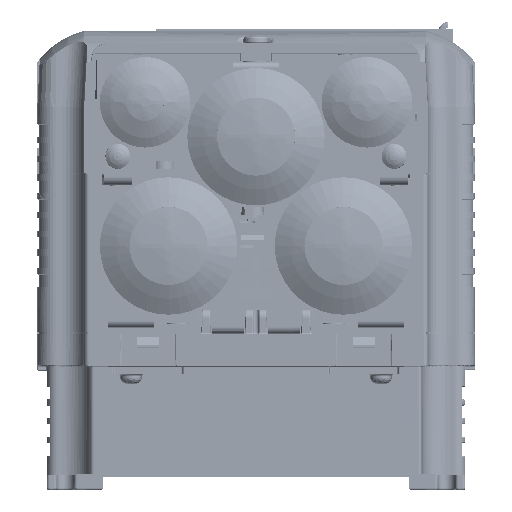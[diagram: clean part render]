
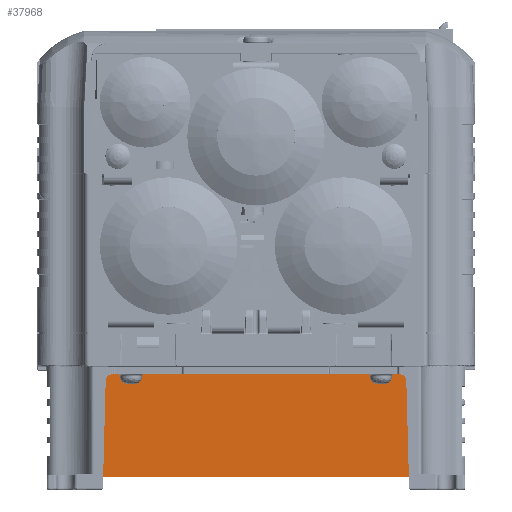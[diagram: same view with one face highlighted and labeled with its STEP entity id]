
A CAD part, front view. The second image highlights one B-rep face of the part: STEP entity #37968.
In plain terms, the highlighted planar face has unit normal (0, -1, 0).
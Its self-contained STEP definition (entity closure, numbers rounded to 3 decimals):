
#1904=DIRECTION('',(0.,0.,1.));
#1905=VECTOR('',#1904,33.);
#1906=CARTESIAN_POINT('',(55.259,-97.793,4.));
#1907=LINE('',#1906,#1905);
#1912=DIRECTION('',(0.,0.,1.));
#1913=VECTOR('',#1912,33.);
#1914=CARTESIAN_POINT('',(-55.259,-97.793,4.));
#1915=LINE('',#1914,#1913);
#19019=DIRECTION('',(-1.,0.,0.));
#19020=VECTOR('',#19019,110.518);
#19021=CARTESIAN_POINT('',(55.259,-97.793,37.));
#19022=LINE('',#19021,#19020);
#24315=DIRECTION('',(-1.,0.,0.));
#24316=VECTOR('',#24315,110.518);
#24317=CARTESIAN_POINT('',(55.259,-97.793,4.));
#24318=LINE('',#24317,#24316);
#35326=CARTESIAN_POINT('',(55.259,-97.793,4.));
#35328=VERTEX_POINT('',#35326);
#35329=CARTESIAN_POINT('',(-55.259,-97.793,4.));
#35330=VERTEX_POINT('',#35329);
#35346=CARTESIAN_POINT('',(55.259,-97.793,37.));
#35348=VERTEX_POINT('',#35346);
#35349=CARTESIAN_POINT('',(-55.259,-97.793,37.));
#35350=VERTEX_POINT('',#35349);
#37954=CARTESIAN_POINT('',(55.259,-97.793,4.));
#37955=DIRECTION('',(0.,-1.,0.));
#37956=DIRECTION('',(-1.,0.,0.));
#37957=AXIS2_PLACEMENT_3D('',#37954,#37955,#37956);
#37958=PLANE('',#37957);
#37960=ORIENTED_EDGE('',*,*,#37959,.F.);
#37961=ORIENTED_EDGE('',*,*,#37895,.F.);
#37963=ORIENTED_EDGE('',*,*,#37962,.T.);
#37965=ORIENTED_EDGE('',*,*,#37964,.T.);
#37966=EDGE_LOOP('',(#37960,#37961,#37963,#37965));
#37967=FACE_OUTER_BOUND('',#37966,.F.);
#37968=ADVANCED_FACE('',(#37967),#37958,.T.);
#37895=EDGE_CURVE('',#35328,#35348,#1907,.T.);
#37959=EDGE_CURVE('',#35348,#35350,#19022,.T.);
#37962=EDGE_CURVE('',#35328,#35330,#24318,.T.);
#37964=EDGE_CURVE('',#35330,#35350,#1915,.T.);
